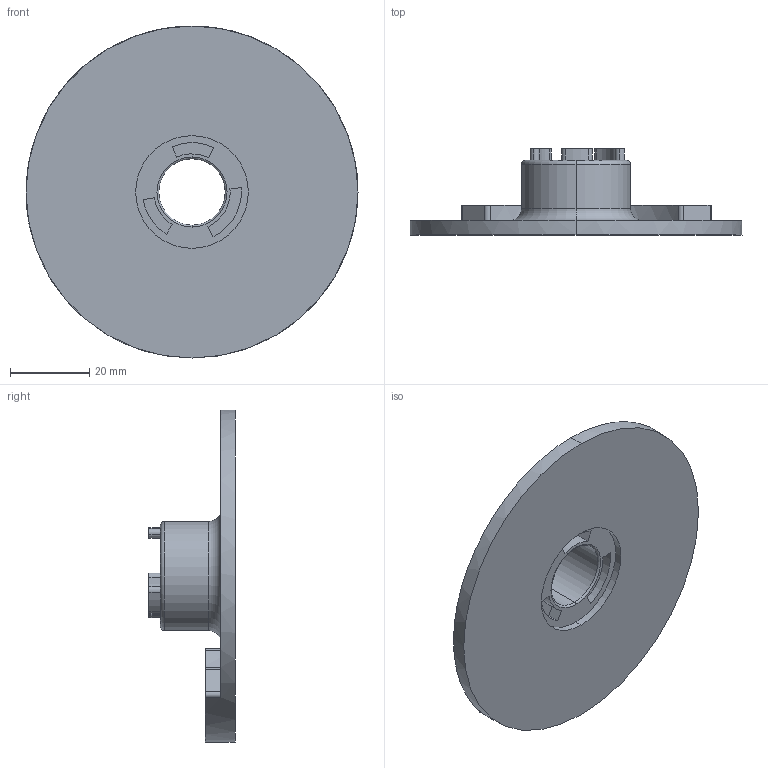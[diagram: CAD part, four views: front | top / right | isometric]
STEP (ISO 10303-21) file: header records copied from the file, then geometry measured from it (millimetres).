
FILE_DESCRIPTION (( 'STEP AP214' ), '1' );
FILE_NAME ('BOWFLEX PART 4.STEP', '2020-04-29T04:56:31', ( '' ), ( '' ), 'SwSTEP 2.0', 'SolidWorks 2019', '' );
FILE_SCHEMA (( 'AUTOMOTIVE_DESIGN' ));
Length unit declared in the file: millimetre
Products named in the file (1): BOWFLEX PART 4
Bounding box: 84 x 21.85 x 84 mm (x, y, z)
Volume: 26976.3 mm3; surface area: 14876.9 mm2
Topology: 1 solids, 1 shells, 89 faces, 226 edges, 148 vertices
Faces by surface type: cylinder 42, plane 33, torus 8, bspline 6
Entity records: 3122 total; most frequent: CARTESIAN_POINT 870, DIRECTION 486, ORIENTED_EDGE 452, EDGE_CURVE 226, AXIS2_PLACEMENT_3D 188, VERTEX_POINT 148, VECTOR 110, LINE 110
